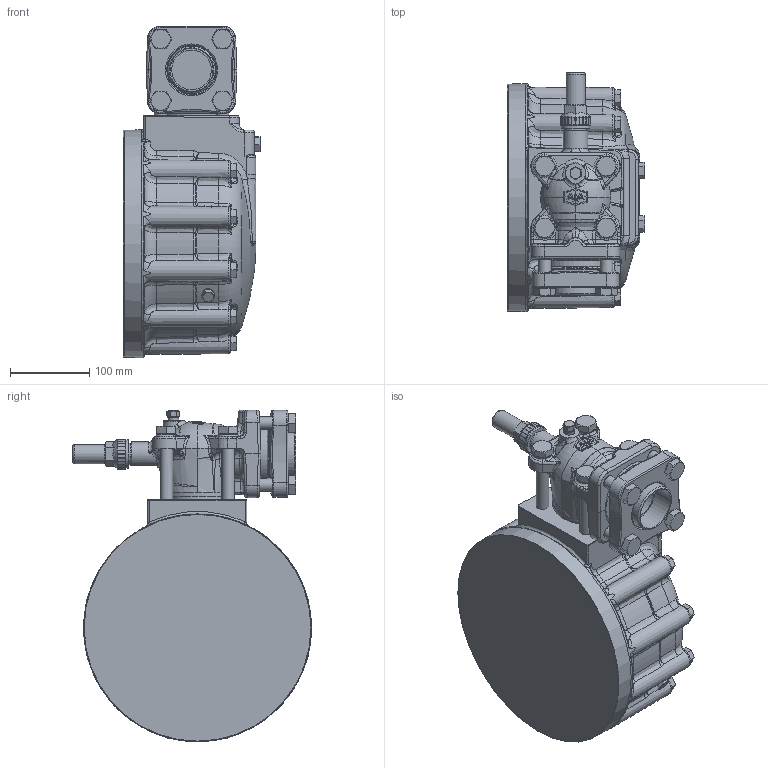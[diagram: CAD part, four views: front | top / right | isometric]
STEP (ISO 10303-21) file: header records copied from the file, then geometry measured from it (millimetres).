
FILE_DESCRIPTION(/* description */ (''),/* implementation_level */ '2;1');
FILE_NAME(/* name */ '4HE25-4GE30-4FE.stp',/* time_stamp */ '2023-10-23T14:36:18+02:00',/* author */ (''),/* organization */ (''),/* preprocessor_version */ 'ST-DEVELOPER v19.3',/* originating_system */ 'SIEMENS PLM Software NX2212.3001',/* authorisation */ '');
FILE_SCHEMA (('AUTOMOTIVE_DESIGN { 1 0 10303 214 3 1 1 1 }'));
Products named in the file (3): HOUSING-COVER-4H-6F; SHUT-OFF-VALVE-D54L-DN50; 4HE25-4GE30-4FE
Assembly tree (2 placements, depth 2):
  4HE25-4GE30-4FE
    SHUT-OFF-VALVE-D54L-DN50
    HOUSING-COVER-4H-6F
Bounding box: 173.1 x 301.04 x 417.68 mm (x, y, z)
Volume: 10627863.7 mm3; surface area: 461011.1 mm2
Topology: 2 solids, 3 shells, 2465 faces, 6211 edges, 3760 vertices
Faces by surface type: bspline 725, plane 720, extrusion 307, cylinder 229, cone 227, torus 200, sphere 57
Full cylindrical faces by diameter (mm): 13.7 x1, 13.716 x1, 14 x4, 16 x8, 16.6 x12, 17 x4, 24 x1, 27 x1, 36 x1, 50 x1, 54.2 x1, 60 x4, 61 x2, 62.5 x1, 75 x2, 76 x2, 286 x1
Entity records: 113157 total; most frequent: CARTESIAN_POINT 51875, ORIENTED_EDGE 11810, DIRECTION 8147, EDGE_CURVE 5905, VERTEX_POINT 3700, AXIS2_PLACEMENT_3D 2975, B_SPLINE_CURVE_WITH_KNOTS 2778, EDGE_LOOP 2729
